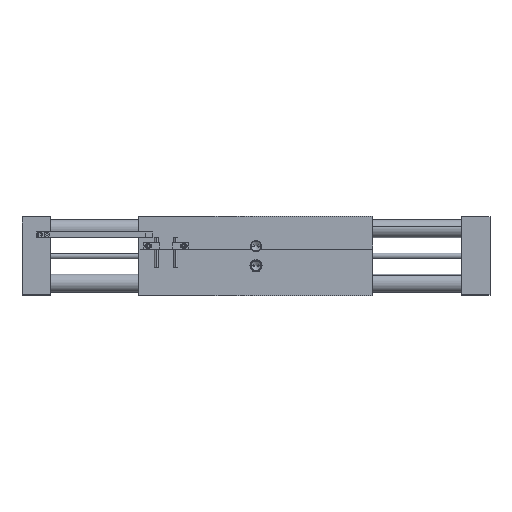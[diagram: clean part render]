
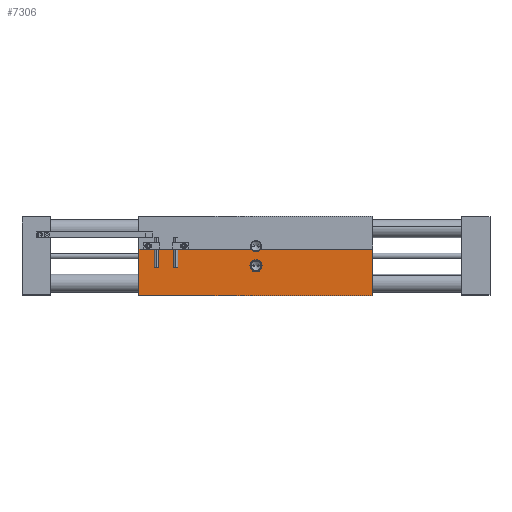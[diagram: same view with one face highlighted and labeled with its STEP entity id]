
A CAD part, top view. The second image highlights one B-rep face of the part: STEP entity #7306.
In plain terms, the highlighted planar face has unit normal (0, 0, 1).
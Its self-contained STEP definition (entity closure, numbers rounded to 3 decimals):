
#311 = EDGE_LOOP ( 'NONE', ( #7838, #3158 ) ) ;
#398 = FACE_BOUND ( 'NONE', #311, .T. ) ;
#402 = LINE ( 'NONE', #7785, #3955 ) ;
#565 = DIRECTION ( 'NONE',  ( 0., -1., 0. ) ) ;
#566 = DIRECTION ( 'NONE',  ( 1., 0., 0. ) ) ;
#643 = ORIENTED_EDGE ( 'NONE', *, *, #5792, .F. ) ;
#734 = CARTESIAN_POINT ( 'NONE',  ( 5.398, -8.89, 35.56 ) ) ;
#819 = CARTESIAN_POINT ( 'NONE',  ( 0., -8.89, 35.56 ) ) ;
#853 = EDGE_LOOP ( 'NONE', ( #643, #6889, #1293, #5320, #6257, #5568 ) ) ;
#1079 = AXIS2_PLACEMENT_3D ( 'NONE', #1929, #6524, #2588 ) ;
#1293 = ORIENTED_EDGE ( 'NONE', *, *, #5413, .F. ) ;
#1353 = LINE ( 'NONE', #4559, #4656 ) ;
#1372 = VERTEX_POINT ( 'NONE', #734 ) ;
#1530 = DIRECTION ( 'NONE',  ( -1., 0., 0. ) ) ;
#1532 = VERTEX_POINT ( 'NONE', #4798 ) ;
#1586 = VECTOR ( 'NONE', #7843, 1000. ) ;
#1613 = AXIS2_PLACEMENT_3D ( 'NONE', #2103, #6682, #2760 ) ;
#1929 = CARTESIAN_POINT ( 'NONE',  ( 0., -8.89, 35.56 ) ) ;
#2101 = CARTESIAN_POINT ( 'NONE',  ( -104.775, -35.56, 35.56 ) ) ;
#2103 = CARTESIAN_POINT ( 'NONE',  ( 0., 8.89, 35.56 ) ) ;
#2123 = AXIS2_PLACEMENT_3D ( 'NONE', #819, #5474, #1530 ) ;
#2229 = FACE_OUTER_BOUND ( 'NONE', #853, .T. ) ;
#2588 = DIRECTION ( 'NONE',  ( -1., 0., 0. ) ) ;
#2626 = VERTEX_POINT ( 'NONE', #4435 ) ;
#2760 = DIRECTION ( 'NONE',  ( 1., 0., 0. ) ) ;
#3030 = VECTOR ( 'NONE', #8371, 1000. ) ;
#3135 = VERTEX_POINT ( 'NONE', #5607 ) ;
#3141 = LINE ( 'NONE', #8534, #8204 ) ;
#3158 = ORIENTED_EDGE ( 'NONE', *, *, #5781, .T. ) ;
#3240 = VERTEX_POINT ( 'NONE', #6949 ) ;
#3460 = CIRCLE ( 'NONE', #2123, 5.398 ) ;
#3638 = CARTESIAN_POINT ( 'NONE',  ( 104.775, -35.56, 35.56 ) ) ;
#3668 = AXIS2_PLACEMENT_3D ( 'NONE', #5913, #3943, #8583 ) ;
#3727 = CARTESIAN_POINT ( 'NONE',  ( 104.775, -35.56, 35.56 ) ) ;
#3943 = DIRECTION ( 'NONE',  ( 0., 0., -1. ) ) ;
#3955 = VECTOR ( 'NONE', #5139, 1000. ) ;
#3984 = VERTEX_POINT ( 'NONE', #2101 ) ;
#4068 = CIRCLE ( 'NONE', #1613, 5.144 ) ;
#4435 = CARTESIAN_POINT ( 'NONE',  ( 104.775, 6.121, 35.56 ) ) ;
#4526 = EDGE_CURVE ( 'NONE', #1372, #3240, #3460, .T. ) ;
#4533 = CARTESIAN_POINT ( 'NONE',  ( -104.775, 6.121, 35.56 ) ) ;
#4559 = CARTESIAN_POINT ( 'NONE',  ( -104.775, 6.121, 35.56 ) ) ;
#4656 = VECTOR ( 'NONE', #566, 1000. ) ;
#4798 = CARTESIAN_POINT ( 'NONE',  ( 4.335, 6.121, 35.56 ) ) ;
#5082 = CIRCLE ( 'NONE', #1079, 5.398 ) ;
#5116 = EDGE_CURVE ( 'NONE', #3135, #1532, #4068, .T. ) ;
#5139 = DIRECTION ( 'NONE',  ( 1., 0., 0. ) ) ;
#5320 = ORIENTED_EDGE ( 'NONE', *, *, #5445, .T. ) ;
#5321 = EDGE_CURVE ( 'NONE', #3984, #5959, #402, .T. ) ;
#5413 = EDGE_CURVE ( 'NONE', #8369, #3135, #6840, .T. ) ;
#5445 = EDGE_CURVE ( 'NONE', #8369, #3984, #3141, .T. ) ;
#5474 = DIRECTION ( 'NONE',  ( 0., 0., -1. ) ) ;
#5568 = ORIENTED_EDGE ( 'NONE', *, *, #5676, .T. ) ;
#5607 = CARTESIAN_POINT ( 'NONE',  ( -4.335, 6.121, 35.56 ) ) ;
#5676 = EDGE_CURVE ( 'NONE', #5959, #2626, #7881, .T. ) ;
#5781 = EDGE_CURVE ( 'NONE', #3240, #1372, #5082, .T. ) ;
#5792 = EDGE_CURVE ( 'NONE', #1532, #2626, #1353, .T. ) ;
#5913 = CARTESIAN_POINT ( 'NONE',  ( -104.775, 35.56, 35.56 ) ) ;
#5959 = VERTEX_POINT ( 'NONE', #3638 ) ;
#6257 = ORIENTED_EDGE ( 'NONE', *, *, #5321, .T. ) ;
#6524 = DIRECTION ( 'NONE',  ( 0., 0., -1. ) ) ;
#6682 = DIRECTION ( 'NONE',  ( 0., 0., 1. ) ) ;
#6840 = LINE ( 'NONE', #4533, #1586 ) ;
#6889 = ORIENTED_EDGE ( 'NONE', *, *, #5116, .F. ) ;
#6949 = CARTESIAN_POINT ( 'NONE',  ( -5.398, -8.89, 35.56 ) ) ;
#7306 = ADVANCED_FACE ( 'NONE', ( #398, #2229 ), #7912, .F. ) ;
#7785 = CARTESIAN_POINT ( 'NONE',  ( -104.775, -35.56, 35.56 ) ) ;
#7838 = ORIENTED_EDGE ( 'NONE', *, *, #4526, .T. ) ;
#7843 = DIRECTION ( 'NONE',  ( 1., 0., 0. ) ) ;
#7881 = LINE ( 'NONE', #3727, #3030 ) ;
#7912 = PLANE ( 'NONE',  #3668 ) ;
#8204 = VECTOR ( 'NONE', #565, 1000. ) ;
#8369 = VERTEX_POINT ( 'NONE', #8578 ) ;
#8371 = DIRECTION ( 'NONE',  ( 0., 1., 0. ) ) ;
#8534 = CARTESIAN_POINT ( 'NONE',  ( -104.775, 35.56, 35.56 ) ) ;
#8578 = CARTESIAN_POINT ( 'NONE',  ( -104.775, 6.121, 35.56 ) ) ;
#8583 = DIRECTION ( 'NONE',  ( -1., 0., 0. ) ) ;
